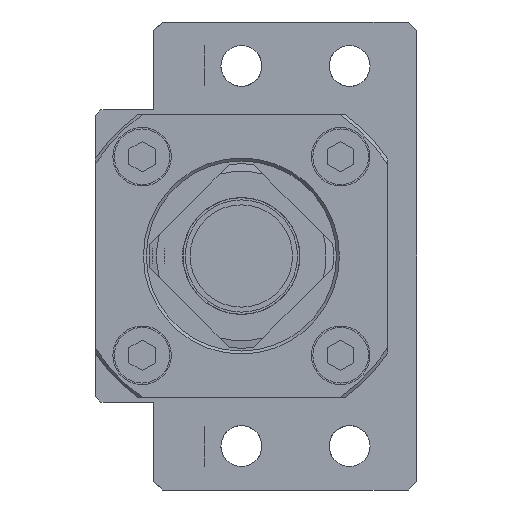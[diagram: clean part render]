
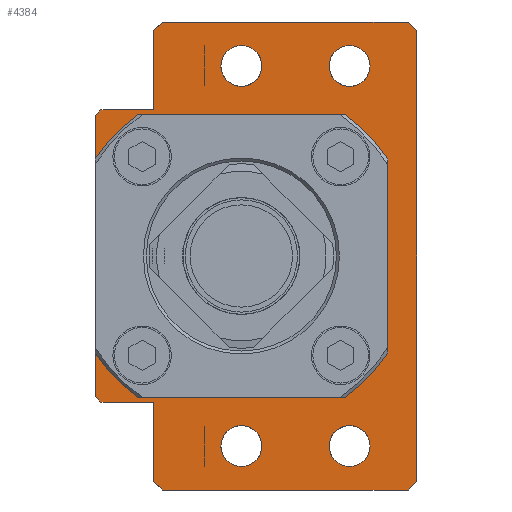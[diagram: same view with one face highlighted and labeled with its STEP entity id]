
A CAD part, left-side view. The second image highlights one B-rep face of the part: STEP entity #4384.
In plain terms, the highlighted planar face has unit normal (-1, 0, 0) as drawn and (0, 0, 1) by its records, which use the part's own axes.
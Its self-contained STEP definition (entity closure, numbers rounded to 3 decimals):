
#228=FACE_BOUND('',#809,.T.);
#229=FACE_BOUND('',#810,.T.);
#230=FACE_BOUND('',#811,.T.);
#231=FACE_BOUND('',#812,.T.);
#232=FACE_BOUND('',#813,.T.);
#361=PLANE('',#4817);
#529=FACE_OUTER_BOUND('',#808,.T.);
#808=EDGE_LOOP('',(#3401,#3402,#3403,#3404,#3405,#3406,#3407,#3408,#3409,
#3410,#3411,#3412,#3413,#3414));
#809=EDGE_LOOP('',(#3415));
#810=EDGE_LOOP('',(#3416));
#811=EDGE_LOOP('',(#3417));
#812=EDGE_LOOP('',(#3418));
#813=EDGE_LOOP('',(#3419,#3420,#3421,#3422,#3423,#3424,#3425,#3426));
#1061=LINE('',#7264,#1389);
#1125=LINE('',#7652,#1453);
#1128=LINE('',#7657,#1456);
#1130=LINE('',#7661,#1458);
#1132=LINE('',#7665,#1460);
#1137=LINE('',#7672,#1465);
#1139=LINE('',#7676,#1467);
#1143=LINE('',#7683,#1471);
#1146=LINE('',#7688,#1474);
#1147=LINE('',#7690,#1475);
#1148=LINE('',#7693,#1476);
#1150=LINE('',#7697,#1478);
#1152=LINE('',#7700,#1480);
#1153=LINE('',#7701,#1481);
#1154=LINE('',#7706,#1482);
#1155=LINE('',#7710,#1483);
#1156=LINE('',#7714,#1484);
#1157=LINE('',#7717,#1485);
#1389=VECTOR('',#5254,1000.);
#1453=VECTOR('',#5510,1000.);
#1456=VECTOR('',#5515,1000.);
#1458=VECTOR('',#5519,1000.);
#1460=VECTOR('',#5523,1000.);
#1465=VECTOR('',#5530,1000.);
#1467=VECTOR('',#5534,1000.);
#1471=VECTOR('',#5540,1000.);
#1474=VECTOR('',#5545,1000.);
#1475=VECTOR('',#5548,1000.);
#1476=VECTOR('',#5551,1000.);
#1478=VECTOR('',#5555,1000.);
#1480=VECTOR('',#5559,1000.);
#1481=VECTOR('',#5560,1000.);
#1482=VECTOR('',#5563,1000.);
#1483=VECTOR('',#5566,1000.);
#1484=VECTOR('',#5569,1000.);
#1485=VECTOR('',#5572,1000.);
#1711=CIRCLE('',#4692,7.);
#1713=CIRCLE('',#4697,7.);
#1715=CIRCLE('',#4702,7.);
#1717=CIRCLE('',#4707,7.);
#1776=CIRCLE('',#4818,59.);
#1777=CIRCLE('',#4819,59.);
#1778=CIRCLE('',#4820,59.);
#1779=CIRCLE('',#4821,59.);
#1911=VERTEX_POINT('',#6538);
#1925=VERTEX_POINT('',#6744);
#1939=VERTEX_POINT('',#6950);
#1953=VERTEX_POINT('',#7156);
#1961=VERTEX_POINT('',#7262);
#1962=VERTEX_POINT('',#7263);
#2072=VERTEX_POINT('',#7650);
#2073=VERTEX_POINT('',#7651);
#2074=VERTEX_POINT('',#7656);
#2075=VERTEX_POINT('',#7660);
#2076=VERTEX_POINT('',#7664);
#2077=VERTEX_POINT('',#7670);
#2078=VERTEX_POINT('',#7674);
#2079=VERTEX_POINT('',#7680);
#2080=VERTEX_POINT('',#7682);
#2081=VERTEX_POINT('',#7686);
#2082=VERTEX_POINT('',#7692);
#2083=VERTEX_POINT('',#7696);
#2084=VERTEX_POINT('',#7702);
#2085=VERTEX_POINT('',#7703);
#2086=VERTEX_POINT('',#7705);
#2087=VERTEX_POINT('',#7707);
#2088=VERTEX_POINT('',#7709);
#2089=VERTEX_POINT('',#7711);
#2090=VERTEX_POINT('',#7713);
#2091=VERTEX_POINT('',#7715);
#2347=EDGE_CURVE('',#1911,#1911,#1711,.T.);
#2364=EDGE_CURVE('',#1925,#1925,#1713,.T.);
#2381=EDGE_CURVE('',#1939,#1939,#1715,.T.);
#2398=EDGE_CURVE('',#1953,#1953,#1717,.T.);
#2408=EDGE_CURVE('',#1961,#1962,#1061,.T.);
#2559=EDGE_CURVE('',#2072,#2073,#1125,.T.);
#2562=EDGE_CURVE('',#2073,#2074,#1128,.T.);
#2564=EDGE_CURVE('',#2074,#2075,#1130,.T.);
#2566=EDGE_CURVE('',#2075,#2076,#1132,.T.);
#2571=EDGE_CURVE('',#2076,#2077,#1137,.T.);
#2573=EDGE_CURVE('',#2077,#2078,#1139,.T.);
#2577=EDGE_CURVE('',#2080,#2079,#1143,.T.);
#2580=EDGE_CURVE('',#2079,#2081,#1146,.T.);
#2581=EDGE_CURVE('',#2081,#2072,#1147,.T.);
#2582=EDGE_CURVE('',#2078,#2082,#1148,.T.);
#2584=EDGE_CURVE('',#2083,#2080,#1150,.T.);
#2586=EDGE_CURVE('',#1961,#2083,#1152,.T.);
#2587=EDGE_CURVE('',#2082,#1962,#1153,.T.);
#2588=EDGE_CURVE('',#2084,#2085,#1776,.T.);
#2589=EDGE_CURVE('',#2086,#2085,#1154,.T.);
#2590=EDGE_CURVE('',#2086,#2087,#1777,.T.);
#2591=EDGE_CURVE('',#2088,#2087,#1155,.T.);
#2592=EDGE_CURVE('',#2088,#2089,#1778,.T.);
#2593=EDGE_CURVE('',#2090,#2089,#1156,.T.);
#2594=EDGE_CURVE('',#2090,#2091,#1779,.T.);
#2595=EDGE_CURVE('',#2084,#2091,#1157,.T.);
#3401=ORIENTED_EDGE('',*,*,#2586,.T.);
#3402=ORIENTED_EDGE('',*,*,#2584,.T.);
#3403=ORIENTED_EDGE('',*,*,#2577,.T.);
#3404=ORIENTED_EDGE('',*,*,#2580,.T.);
#3405=ORIENTED_EDGE('',*,*,#2581,.T.);
#3406=ORIENTED_EDGE('',*,*,#2559,.T.);
#3407=ORIENTED_EDGE('',*,*,#2562,.T.);
#3408=ORIENTED_EDGE('',*,*,#2564,.T.);
#3409=ORIENTED_EDGE('',*,*,#2566,.T.);
#3410=ORIENTED_EDGE('',*,*,#2571,.T.);
#3411=ORIENTED_EDGE('',*,*,#2573,.T.);
#3412=ORIENTED_EDGE('',*,*,#2582,.T.);
#3413=ORIENTED_EDGE('',*,*,#2587,.T.);
#3414=ORIENTED_EDGE('',*,*,#2408,.F.);
#3415=ORIENTED_EDGE('',*,*,#2347,.T.);
#3416=ORIENTED_EDGE('',*,*,#2364,.T.);
#3417=ORIENTED_EDGE('',*,*,#2381,.T.);
#3418=ORIENTED_EDGE('',*,*,#2398,.T.);
#3419=ORIENTED_EDGE('',*,*,#2588,.T.);
#3420=ORIENTED_EDGE('',*,*,#2589,.F.);
#3421=ORIENTED_EDGE('',*,*,#2590,.T.);
#3422=ORIENTED_EDGE('',*,*,#2591,.F.);
#3423=ORIENTED_EDGE('',*,*,#2592,.T.);
#3424=ORIENTED_EDGE('',*,*,#2593,.F.);
#3425=ORIENTED_EDGE('',*,*,#2594,.T.);
#3426=ORIENTED_EDGE('',*,*,#2595,.F.);
#4384=ADVANCED_FACE('',(#529,#228,#229,#230,#231,#232),#361,.T.);
#4692=AXIS2_PLACEMENT_3D('',#6539,#5205,#5206);
#4697=AXIS2_PLACEMENT_3D('',#6745,#5218,#5219);
#4702=AXIS2_PLACEMENT_3D('',#6951,#5231,#5232);
#4707=AXIS2_PLACEMENT_3D('',#7157,#5244,#5245);
#4817=AXIS2_PLACEMENT_3D('',#7699,#5557,#5558);
#4818=AXIS2_PLACEMENT_3D('',#7704,#5561,#5562);
#4819=AXIS2_PLACEMENT_3D('',#7708,#5564,#5565);
#4820=AXIS2_PLACEMENT_3D('',#7712,#5567,#5568);
#4821=AXIS2_PLACEMENT_3D('',#7716,#5570,#5571);
#5205=DIRECTION('center_axis',(0.,0.,-1.));
#5206=DIRECTION('ref_axis',(1.,0.,0.));
#5218=DIRECTION('center_axis',(0.,0.,-1.));
#5219=DIRECTION('ref_axis',(1.,0.,0.));
#5231=DIRECTION('center_axis',(0.,0.,-1.));
#5232=DIRECTION('ref_axis',(1.,0.,0.));
#5244=DIRECTION('center_axis',(0.,0.,-1.));
#5245=DIRECTION('ref_axis',(1.,0.,0.));
#5254=DIRECTION('',(1.,0.,0.));
#5510=DIRECTION('',(0.707,-0.707,0.));
#5515=DIRECTION('',(1.,0.,0.));
#5519=DIRECTION('',(0.707,0.707,0.));
#5523=DIRECTION('',(0.,1.,0.));
#5530=DIRECTION('',(-0.707,0.707,0.));
#5534=DIRECTION('',(-1.,0.,0.));
#5540=DIRECTION('',(-1.,0.,0.));
#5545=DIRECTION('',(-0.707,-0.707,0.));
#5548=DIRECTION('',(0.,-1.,0.));
#5551=DIRECTION('',(0.,1.,0.));
#5555=DIRECTION('',(0.,-1.,0.));
#5557=DIRECTION('center_axis',(0.,0.,1.));
#5558=DIRECTION('ref_axis',(1.,0.,0.));
#5559=DIRECTION('',(-0.707,-0.707,0.));
#5560=DIRECTION('',(-0.707,0.707,0.));
#5561=DIRECTION('center_axis',(0.,0.,-1.));
#5562=DIRECTION('ref_axis',(-1.,0.,0.));
#5563=DIRECTION('',(-1.,0.,0.));
#5564=DIRECTION('center_axis',(0.,0.,-1.));
#5565=DIRECTION('ref_axis',(-1.,0.,0.));
#5566=DIRECTION('',(0.,1.,0.));
#5567=DIRECTION('center_axis',(0.,0.,-1.));
#5568=DIRECTION('ref_axis',(-1.,0.,0.));
#5569=DIRECTION('',(1.,0.,0.));
#5570=DIRECTION('center_axis',(0.,0.,-1.));
#5571=DIRECTION('ref_axis',(-1.,0.,0.));
#5572=DIRECTION('',(0.,-1.,0.));
#6538=CARTESIAN_POINT('',(58.,0.,0.));
#6539=CARTESIAN_POINT('Origin',(65.,0.,0.));
#6744=CARTESIAN_POINT('',(-72.,0.,0.));
#6745=CARTESIAN_POINT('Origin',(-65.,0.,0.));
#6950=CARTESIAN_POINT('',(58.,-37.,0.));
#6951=CARTESIAN_POINT('Origin',(65.,-37.,0.));
#7156=CARTESIAN_POINT('',(-72.,-37.,0.));
#7157=CARTESIAN_POINT('Origin',(-65.,-37.,0.));
#7262=CARTESIAN_POINT('',(-48.,50.,0.));
#7263=CARTESIAN_POINT('',(48.,50.,0.));
#7264=CARTESIAN_POINT('',(48.,50.,0.));
#7650=CARTESIAN_POINT('',(-80.,-57.,0.));
#7651=CARTESIAN_POINT('',(-77.,-60.,0.));
#7652=CARTESIAN_POINT('',(-80.,-57.,0.));
#7656=CARTESIAN_POINT('',(77.,-60.,0.));
#7657=CARTESIAN_POINT('',(-77.,-60.,0.));
#7660=CARTESIAN_POINT('',(80.,-57.,0.));
#7661=CARTESIAN_POINT('',(77.,-60.,0.));
#7664=CARTESIAN_POINT('',(80.,27.,0.));
#7665=CARTESIAN_POINT('',(80.,-57.,0.));
#7670=CARTESIAN_POINT('',(77.,30.,0.));
#7672=CARTESIAN_POINT('',(80.,27.,0.));
#7674=CARTESIAN_POINT('',(50.,30.,0.));
#7676=CARTESIAN_POINT('',(77.,30.,0.));
#7680=CARTESIAN_POINT('',(-77.,30.,0.));
#7682=CARTESIAN_POINT('',(-50.,30.,0.));
#7683=CARTESIAN_POINT('',(-50.,30.,0.));
#7686=CARTESIAN_POINT('',(-80.,27.,0.));
#7688=CARTESIAN_POINT('',(-77.,30.,0.));
#7690=CARTESIAN_POINT('',(-80.,27.,0.));
#7692=CARTESIAN_POINT('',(50.,48.,0.));
#7693=CARTESIAN_POINT('',(50.,30.,0.));
#7696=CARTESIAN_POINT('',(-50.,48.,0.));
#7697=CARTESIAN_POINT('',(-50.,48.,0.));
#7699=CARTESIAN_POINT('Origin',(0.,0.,0.));
#7700=CARTESIAN_POINT('',(-48.,50.,0.));
#7701=CARTESIAN_POINT('',(50.,48.,0.));
#7702=CARTESIAN_POINT('',(-48.48,33.626,0.));
#7703=CARTESIAN_POINT('',(-31.353,49.98,0.));
#7704=CARTESIAN_POINT('Origin',(0.,0.,0.));
#7705=CARTESIAN_POINT('',(31.353,49.98,0.));
#7706=CARTESIAN_POINT('',(48.48,49.98,0.));
#7707=CARTESIAN_POINT('',(48.48,33.626,0.));
#7708=CARTESIAN_POINT('Origin',(0.,0.,0.));
#7709=CARTESIAN_POINT('',(48.48,-33.626,0.));
#7710=CARTESIAN_POINT('',(48.48,-49.98,0.));
#7711=CARTESIAN_POINT('',(31.353,-49.98,0.));
#7712=CARTESIAN_POINT('Origin',(0.,0.,0.));
#7713=CARTESIAN_POINT('',(-31.353,-49.98,0.));
#7714=CARTESIAN_POINT('',(-48.48,-49.98,0.));
#7715=CARTESIAN_POINT('',(-48.48,-33.626,0.));
#7716=CARTESIAN_POINT('Origin',(0.,0.,0.));
#7717=CARTESIAN_POINT('',(-48.48,49.98,0.));
